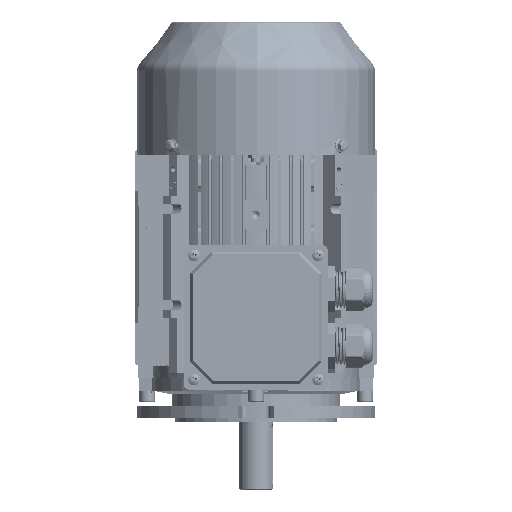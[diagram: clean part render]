
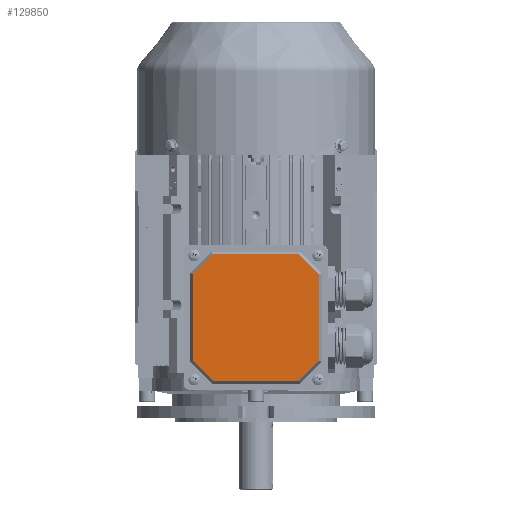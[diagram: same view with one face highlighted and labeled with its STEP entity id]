
A CAD part, top view. The second image highlights one B-rep face of the part: STEP entity #129850.
In plain terms, the highlighted planar face has unit normal (0, 0, 1) as drawn and (0, 0, -1) by its records, which use the part's own axes.
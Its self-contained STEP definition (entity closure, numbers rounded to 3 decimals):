
#2208 = VERTEX_POINT ( 'NONE', #69690 ) ;
#7141 = CARTESIAN_POINT ( 'NONE',  ( 35.903, 52.536, -4. ) ) ;
#11980 = CARTESIAN_POINT ( 'NONE',  ( 52.536, 35.903, -4. ) ) ;
#12534 = ORIENTED_EDGE ( 'NONE', *, *, #24953, .F. ) ;
#14154 = ORIENTED_EDGE ( 'NONE', *, *, #53592, .F. ) ;
#17608 = VECTOR ( 'NONE', #129225, 1000. ) ;
#17890 = VECTOR ( 'NONE', #96237, 1000. ) ;
#19175 = CARTESIAN_POINT ( 'NONE',  ( 0., 0., -4. ) ) ;
#19622 = PLANE ( 'NONE',  #105613 ) ;
#20993 = ORIENTED_EDGE ( 'NONE', *, *, #28662, .F. ) ;
#21131 = EDGE_CURVE ( 'NONE', #77698, #89765, #83179, .T. ) ;
#21518 = CARTESIAN_POINT ( 'NONE',  ( 0., -52.536, -4. ) ) ;
#21639 = LINE ( 'NONE', #121090, #73374 ) ;
#22257 = DIRECTION ( 'NONE',  ( 0.707, -0.707, 0. ) ) ;
#23961 = CARTESIAN_POINT ( 'NONE',  ( 44.22, -44.22, -4. ) ) ;
#24953 = EDGE_CURVE ( 'NONE', #77701, #2208, #62285, .T. ) ;
#28495 = VERTEX_POINT ( 'NONE', #81920 ) ;
#28608 = LINE ( 'NONE', #93581, #80327 ) ;
#28662 = EDGE_CURVE ( 'NONE', #2208, #77698, #66161, .T. ) ;
#30016 = DIRECTION ( 'NONE',  ( 0., 0., 1. ) ) ;
#41666 = DIRECTION ( 'NONE',  ( 0., 1., 0. ) ) ;
#41850 = CARTESIAN_POINT ( 'NONE',  ( 35.903, -52.536, -4. ) ) ;
#42340 = DIRECTION ( 'NONE',  ( 1., 0., 0. ) ) ;
#43783 = ORIENTED_EDGE ( 'NONE', *, *, #117466, .F. ) ;
#46498 = CARTESIAN_POINT ( 'NONE',  ( -44.22, 44.22, -4. ) ) ;
#48374 = LINE ( 'NONE', #46498, #17608 ) ;
#50530 = VERTEX_POINT ( 'NONE', #110224 ) ;
#51457 = CARTESIAN_POINT ( 'NONE',  ( -52.536, 0., -4. ) ) ;
#52394 = CARTESIAN_POINT ( 'NONE',  ( 0., 52.536, -4. ) ) ;
#53592 = EDGE_CURVE ( 'NONE', #104433, #87599, #21639, .T. ) ;
#55423 = EDGE_LOOP ( 'NONE', ( #108516, #121900, #67706, #20993, #12534, #59165, #43783, #14154 ) ) ;
#59165 = ORIENTED_EDGE ( 'NONE', *, *, #109097, .F. ) ;
#61186 = VECTOR ( 'NONE', #72261, 1000. ) ;
#62285 = LINE ( 'NONE', #51457, #117338 ) ;
#66161 = LINE ( 'NONE', #94532, #93662 ) ;
#67706 = ORIENTED_EDGE ( 'NONE', *, *, #21131, .F. ) ;
#69690 = CARTESIAN_POINT ( 'NONE',  ( -52.536, -35.903, -4. ) ) ;
#69918 = DIRECTION ( 'NONE',  ( -0.707, 0.707, 0. ) ) ;
#71568 = EDGE_CURVE ( 'NONE', #50530, #104433, #28608, .T. ) ;
#72196 = FACE_OUTER_BOUND ( 'NONE', #55423, .T. ) ;
#72261 = DIRECTION ( 'NONE',  ( -1., 0., 0. ) ) ;
#73374 = VECTOR ( 'NONE', #69918, 1000. ) ;
#76899 = EDGE_CURVE ( 'NONE', #89765, #50530, #100355, .T. ) ;
#77698 = VERTEX_POINT ( 'NONE', #94399 ) ;
#77701 = VERTEX_POINT ( 'NONE', #104857 ) ;
#80327 = VECTOR ( 'NONE', #41666, 1000. ) ;
#81920 = CARTESIAN_POINT ( 'NONE',  ( -35.903, 52.536, -4. ) ) ;
#83179 = LINE ( 'NONE', #21518, #110726 ) ;
#87599 = VERTEX_POINT ( 'NONE', #7141 ) ;
#88635 = LINE ( 'NONE', #52394, #61186 ) ;
#89765 = VERTEX_POINT ( 'NONE', #41850 ) ;
#93581 = CARTESIAN_POINT ( 'NONE',  ( 52.536, 0., -4. ) ) ;
#93662 = VECTOR ( 'NONE', #22257, 1000. ) ;
#94399 = CARTESIAN_POINT ( 'NONE',  ( -35.903, -52.536, -4. ) ) ;
#94532 = CARTESIAN_POINT ( 'NONE',  ( -44.22, -44.22, -4. ) ) ;
#96237 = DIRECTION ( 'NONE',  ( 0.707, 0.707, 0. ) ) ;
#100355 = LINE ( 'NONE', #23961, #17890 ) ;
#102311 = DIRECTION ( 'NONE',  ( 1., 0., 0. ) ) ;
#104433 = VERTEX_POINT ( 'NONE', #11980 ) ;
#104857 = CARTESIAN_POINT ( 'NONE',  ( -52.536, 35.903, -4. ) ) ;
#105613 = AXIS2_PLACEMENT_3D ( 'NONE', #19175, #30016, #102311 ) ;
#108516 = ORIENTED_EDGE ( 'NONE', *, *, #71568, .F. ) ;
#109097 = EDGE_CURVE ( 'NONE', #28495, #77701, #48374, .T. ) ;
#110224 = CARTESIAN_POINT ( 'NONE',  ( 52.536, -35.903, -4. ) ) ;
#110726 = VECTOR ( 'NONE', #42340, 1000. ) ;
#113388 = DIRECTION ( 'NONE',  ( 0., -1., 0. ) ) ;
#117338 = VECTOR ( 'NONE', #113388, 1000. ) ;
#117466 = EDGE_CURVE ( 'NONE', #87599, #28495, #88635, .T. ) ;
#121090 = CARTESIAN_POINT ( 'NONE',  ( 44.22, 44.22, -4. ) ) ;
#121900 = ORIENTED_EDGE ( 'NONE', *, *, #76899, .F. ) ;
#129225 = DIRECTION ( 'NONE',  ( -0.707, -0.707, 0. ) ) ;
#129850 = ADVANCED_FACE ( 'NONE', ( #72196 ), #19622, .F. ) ;
